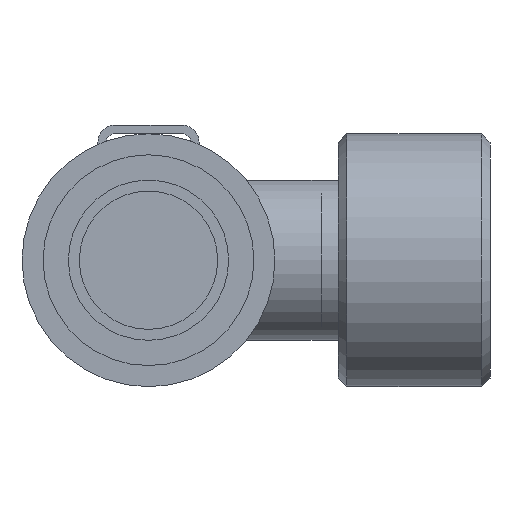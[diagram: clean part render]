
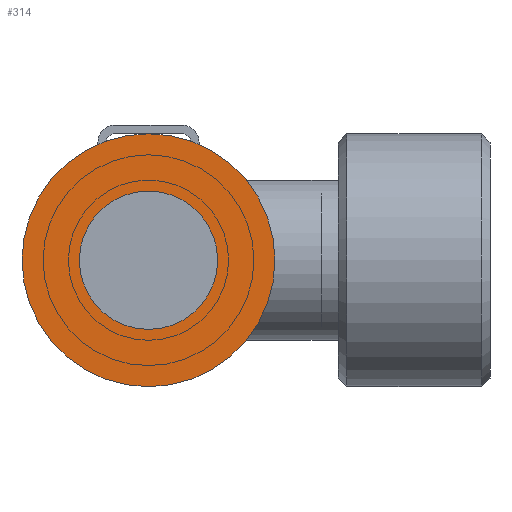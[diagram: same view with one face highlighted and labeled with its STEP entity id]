
A CAD part, front view. The second image highlights one B-rep face of the part: STEP entity #314.
In plain terms, the highlighted planar face has unit normal (0, -1, 0) as drawn and (-1, 0, 0) by its records, which use the part's own axes.
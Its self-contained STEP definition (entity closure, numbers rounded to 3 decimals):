
#314 = ADVANCED_FACE( '', ( #443, #444 ), #445, .F. );
#443 = FACE_OUTER_BOUND( '', #611, .T. );
#444 = FACE_BOUND( '', #612, .T. );
#445 = PLANE( '', #613 );
#611 = EDGE_LOOP( '', ( #846 ) );
#612 = EDGE_LOOP( '', ( #847 ) );
#613 = AXIS2_PLACEMENT_3D( '', #848, #849, #850 );
#846 = ORIENTED_EDGE( '', *, *, #1055, .F. );
#847 = ORIENTED_EDGE( '', *, *, #1054, .T. );
#848 = CARTESIAN_POINT( '', ( -2., 8.2, 0. ) );
#849 = DIRECTION( '', ( 1., 0., 0. ) );
#850 = DIRECTION( '', ( 0., 0., -1. ) );
#1054 = EDGE_CURVE( '', #1168, #1168, #1169, .T. );
#1055 = EDGE_CURVE( '', #1170, #1170, #1171, .T. );
#1168 = VERTEX_POINT( '', #1318 );
#1169 = CIRCLE( '', #1319, 8.2 );
#1170 = VERTEX_POINT( '', #1320 );
#1171 = CIRCLE( '', #1321, 15. );
#1318 = CARTESIAN_POINT( '', ( -2., 0., -8.2 ) );
#1319 = AXIS2_PLACEMENT_3D( '', #1525, #1526, #1527 );
#1320 = CARTESIAN_POINT( '', ( -2., 0., -15. ) );
#1321 = AXIS2_PLACEMENT_3D( '', #1528, #1529, #1530 );
#1525 = CARTESIAN_POINT( '', ( -2., 0., 0. ) );
#1526 = DIRECTION( '', ( 1., 0., 0. ) );
#1527 = DIRECTION( '', ( 0., 0., -1. ) );
#1528 = CARTESIAN_POINT( '', ( -2., 0., 0. ) );
#1529 = DIRECTION( '', ( 1., 0., 0. ) );
#1530 = DIRECTION( '', ( 0., 0., -1. ) );
